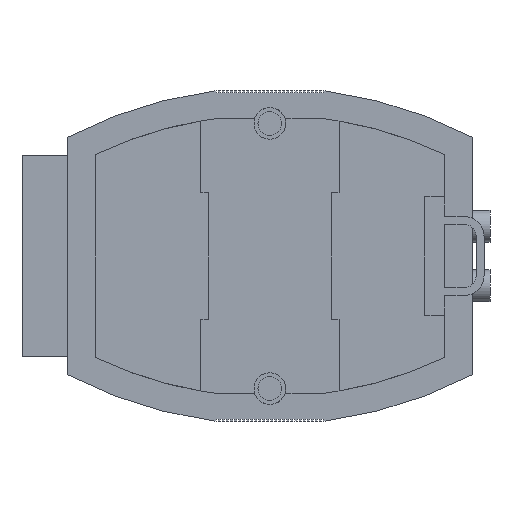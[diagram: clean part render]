
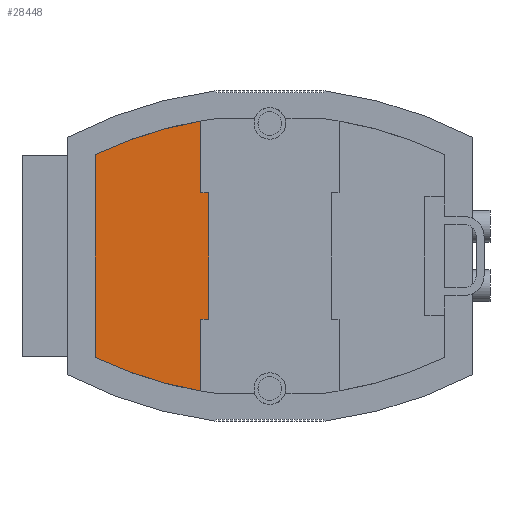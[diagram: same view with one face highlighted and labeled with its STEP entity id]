
A CAD part, front view. The second image highlights one B-rep face of the part: STEP entity #28448.
In plain terms, the highlighted planar face has unit normal (0, -1, 0).
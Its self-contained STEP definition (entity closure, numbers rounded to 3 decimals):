
#487 = EDGE_CURVE ( 'NONE', #11653, #19987, #4000, .T. ) ;
#790 = CARTESIAN_POINT ( 'NONE',  ( -44.2, -8., -25.676 ) ) ;
#1014 = DIRECTION ( 'NONE',  ( 0., 0., -1. ) ) ;
#1614 = EDGE_LOOP ( 'NONE', ( #18702, #18123, #21383, #14062, #8716, #19708, #22334, #27367 ) ) ;
#1779 = VERTEX_POINT ( 'NONE', #12244 ) ;
#4000 = LINE ( 'NONE', #4550, #28484 ) ;
#4406 = CIRCLE ( 'NONE', #22670, 103. ) ;
#4550 = CARTESIAN_POINT ( 'NONE',  ( -17.5, -8., 34.145 ) ) ;
#6242 = DIRECTION ( 'NONE',  ( 1., 0., 0. ) ) ;
#7097 = CARTESIAN_POINT ( 'NONE',  ( -17.5, -8., 16. ) ) ;
#8716 = ORIENTED_EDGE ( 'NONE', *, *, #487, .F. ) ;
#8955 = EDGE_CURVE ( 'NONE', #1779, #26433, #10650, .T. ) ;
#9301 = VERTEX_POINT ( 'NONE', #30430 ) ;
#10340 = LINE ( 'NONE', #21236, #12205 ) ;
#10436 = DIRECTION ( 'NONE',  ( 0., 0., -1. ) ) ;
#10538 = EDGE_CURVE ( 'NONE', #19987, #9301, #28395, .T. ) ;
#10635 = CARTESIAN_POINT ( 'NONE',  ( 0., -8., 67.358 ) ) ;
#10650 = LINE ( 'NONE', #16846, #24206 ) ;
#11214 = EDGE_CURVE ( 'NONE', #9301, #17175, #10340, .T. ) ;
#11653 = VERTEX_POINT ( 'NONE', #25639 ) ;
#12205 = VECTOR ( 'NONE', #25559, 1000. ) ;
#12244 = CARTESIAN_POINT ( 'NONE',  ( -17.5, -8., -16. ) ) ;
#12420 = AXIS2_PLACEMENT_3D ( 'NONE', #15474, #17896, #22941 ) ;
#12442 = VECTOR ( 'NONE', #29131, 1000. ) ;
#13524 = EDGE_CURVE ( 'NONE', #17175, #1779, #20369, .T. ) ;
#14062 = ORIENTED_EDGE ( 'NONE', *, *, #10538, .F. ) ;
#15217 = EDGE_CURVE ( 'NONE', #26748, #23906, #18751, .T. ) ;
#15304 = EDGE_CURVE ( 'NONE', #23906, #26433, #4406, .T. ) ;
#15474 = CARTESIAN_POINT ( 'NONE',  ( 0., -8., -67.358 ) ) ;
#16846 = CARTESIAN_POINT ( 'NONE',  ( -17.5, -8., -16. ) ) ;
#17175 = VERTEX_POINT ( 'NONE', #21628 ) ;
#17896 = DIRECTION ( 'NONE',  ( 0., -1., 0. ) ) ;
#17931 = EDGE_CURVE ( 'NONE', #11653, #26748, #25841, .T. ) ;
#18123 = ORIENTED_EDGE ( 'NONE', *, *, #13524, .F. ) ;
#18197 = DIRECTION ( 'NONE',  ( 0., 0., -1. ) ) ;
#18298 = DIRECTION ( 'NONE',  ( 0., -1., 0. ) ) ;
#18702 = ORIENTED_EDGE ( 'NONE', *, *, #8955, .F. ) ;
#18751 = LINE ( 'NONE', #27777, #24416 ) ;
#18988 = VECTOR ( 'NONE', #6242, 1000. ) ;
#19200 = FACE_OUTER_BOUND ( 'NONE', #1614, .T. ) ;
#19708 = ORIENTED_EDGE ( 'NONE', *, *, #17931, .T. ) ;
#19987 = VERTEX_POINT ( 'NONE', #7097 ) ;
#20369 = LINE ( 'NONE', #26760, #12442 ) ;
#21236 = CARTESIAN_POINT ( 'NONE',  ( -15.5, -8., 16. ) ) ;
#21383 = ORIENTED_EDGE ( 'NONE', *, *, #11214, .F. ) ;
#21628 = CARTESIAN_POINT ( 'NONE',  ( -15.5, -8., -16. ) ) ;
#21717 = CARTESIAN_POINT ( 'NONE',  ( -17.5, -8., -34.145 ) ) ;
#22334 = ORIENTED_EDGE ( 'NONE', *, *, #15217, .T. ) ;
#22670 = AXIS2_PLACEMENT_3D ( 'NONE', #10635, #18298, #1014 ) ;
#22941 = DIRECTION ( 'NONE',  ( 0., 0., -1. ) ) ;
#23435 = DIRECTION ( 'NONE',  ( 0., -1., 0. ) ) ;
#23748 = DIRECTION ( 'NONE',  ( 0., 0., -1. ) ) ;
#23906 = VERTEX_POINT ( 'NONE', #790 ) ;
#24206 = VECTOR ( 'NONE', #10436, 1000. ) ;
#24416 = VECTOR ( 'NONE', #18197, 1000. ) ;
#25559 = DIRECTION ( 'NONE',  ( 0., 0., -1. ) ) ;
#25639 = CARTESIAN_POINT ( 'NONE',  ( -17.5, -8., 34.145 ) ) ;
#25841 = CIRCLE ( 'NONE', #12420, 103. ) ;
#26433 = VERTEX_POINT ( 'NONE', #21717 ) ;
#26748 = VERTEX_POINT ( 'NONE', #31084 ) ;
#26760 = CARTESIAN_POINT ( 'NONE',  ( -15.5, -8., -16. ) ) ;
#27367 = ORIENTED_EDGE ( 'NONE', *, *, #15304, .T. ) ;
#27454 = DIRECTION ( 'NONE',  ( 0., 0., -1. ) ) ;
#27777 = CARTESIAN_POINT ( 'NONE',  ( -44.2, -8., -25.676 ) ) ;
#28057 = CARTESIAN_POINT ( 'NONE',  ( 0., -8., 67.358 ) ) ;
#28153 = PLANE ( 'NONE',  #28855 ) ;
#28395 = LINE ( 'NONE', #30311, #18988 ) ;
#28448 = ADVANCED_FACE ( 'NONE', ( #19200 ), #28153, .T. ) ;
#28484 = VECTOR ( 'NONE', #23748, 1000. ) ;
#28855 = AXIS2_PLACEMENT_3D ( 'NONE', #28057, #23435, #27454 ) ;
#29131 = DIRECTION ( 'NONE',  ( -1., 0., 0. ) ) ;
#30311 = CARTESIAN_POINT ( 'NONE',  ( -17.5, -8., 16. ) ) ;
#30430 = CARTESIAN_POINT ( 'NONE',  ( -15.5, -8., 16. ) ) ;
#31084 = CARTESIAN_POINT ( 'NONE',  ( -44.2, -8., 25.676 ) ) ;
